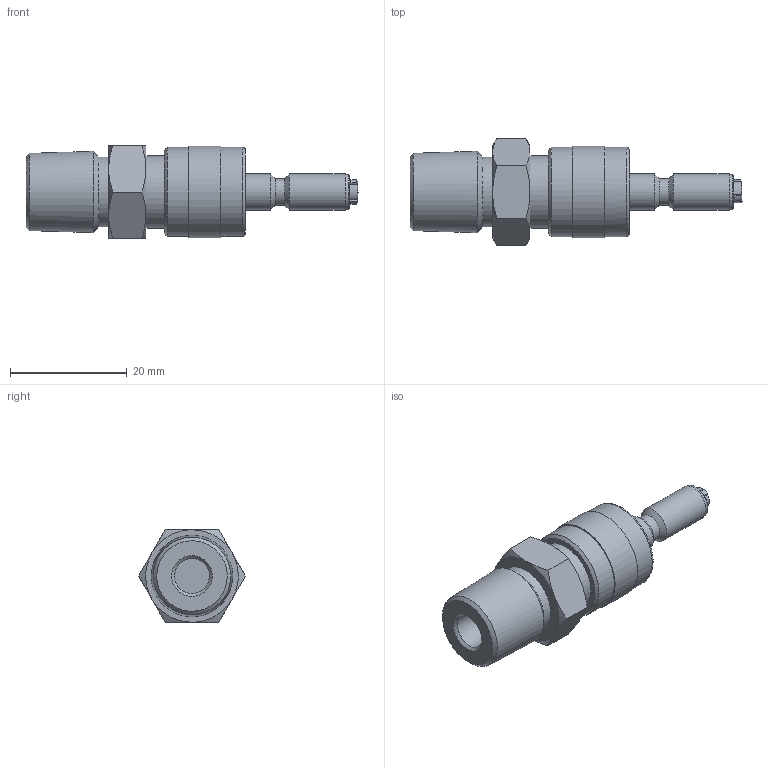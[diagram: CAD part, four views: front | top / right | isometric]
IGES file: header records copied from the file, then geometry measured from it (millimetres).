
Global section: file name: SQC1P-M4N-S0; native system: Autodesk Inventor 2016; preprocessor: unknown; author: 이승민,,11,0; organization: 20170206.124355; date: 20170209.081235; units: millimetre
Bounding box: 57 x 18.33 x 15.88 mm (x, y, z)
Volume: 6149 mm3; surface area: 3363.7 mm2
Topology: 1 solids, 1 shells, 87 faces, 228 edges, 155 vertices
Faces by surface type: bspline 87
